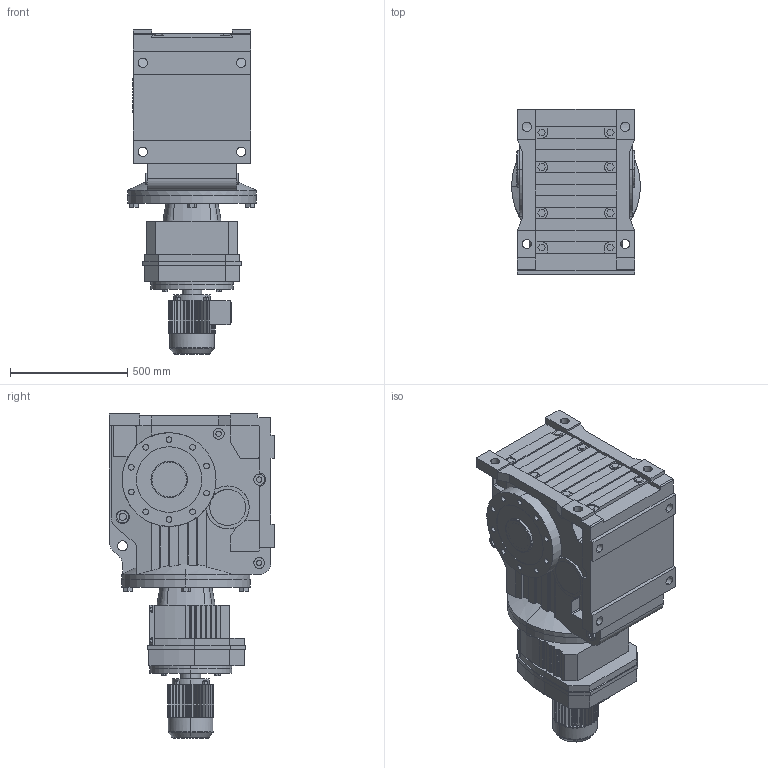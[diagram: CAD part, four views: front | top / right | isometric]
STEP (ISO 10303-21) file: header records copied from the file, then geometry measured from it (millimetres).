
FILE_DESCRIPTION(('Open CASCADE Model'),'2;1');
FILE_NAME('Open CASCADE Shape Model','2021-07-24T16:42:50',('Author'),( 'Open CASCADE'),'Open CASCADE STEP processor 6.3','Open CASCADE 6.3' ,'Unknown');
FILE_SCHEMA(('AUTOMOTIVE_DESIGN_CC2 { 1 2 10303 214 -1 1 5 4 }'));
Length unit declared in the file: millimetre
Products named in the file (5): 1_KA157R107DV100M-A; KA127‵157_157.step; 萇儂_350-DV100M-295-380-197-166.step; R_157_107.step; す瑩諾陑粣K_157.step
Assembly tree (4 placements, depth 2):
  1_KA157R107DV100M-A
    KA127‵157_157.step
    萇儂_350-DV100M-295-380-197-166.step
    R_157_107.step
    す瑩諾陑粣K_157.step
Bounding box: 550 x 705 x 1383 mm (x, y, z)
Volume: 238907972.6 mm3; surface area: 5349544.2 mm2
Topology: 4 solids, 4 shells, 1150 faces, 3032 edges, 1985 vertices
Faces by surface type: plane 788, cylinder 344, cone 14, torus 4
Entity records: 81522 total; most frequent: CARTESIAN_POINT 23750, DIRECTION 9938, ORIENTED_EDGE 6064, PCURVE 6064, DEFINITIONAL_REPRESENTATION 6064, LINE 5539, VECTOR 5539, EDGE_CURVE 3032
